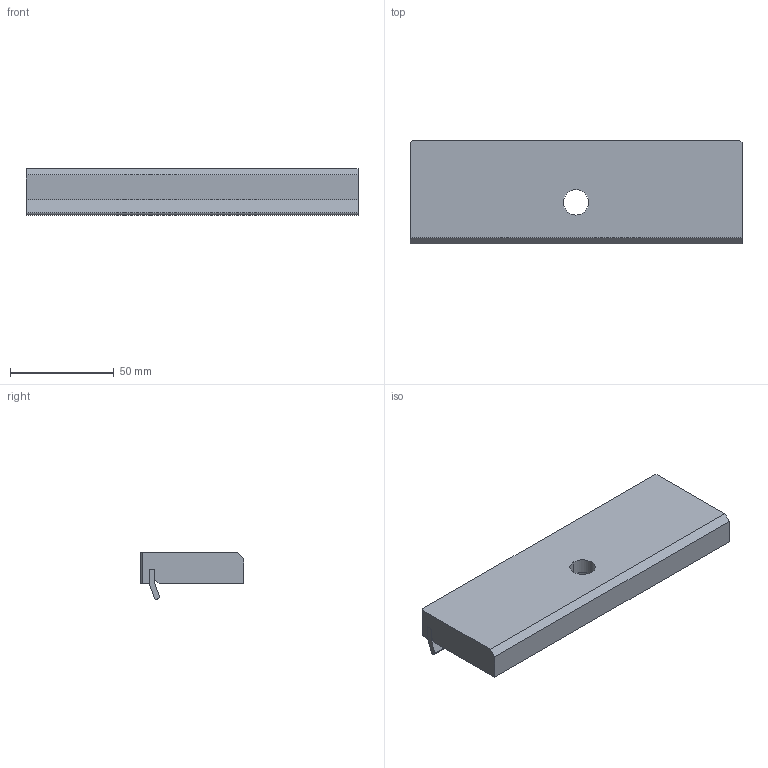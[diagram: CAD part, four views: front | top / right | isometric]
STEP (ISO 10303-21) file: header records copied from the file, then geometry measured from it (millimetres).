
FILE_DESCRIPTION (( 'STEP AP214' ), '1' );
FILE_NAME ('6921034001042.STEP', '2016-02-12T12:57:49', ( '' ), ( '' ), 'SwSTEP 2.0', 'SolidWorks 2015', '' );
FILE_SCHEMA (( 'AUTOMOTIVE_DESIGN' ));
Length unit declared in the file: millimetre
Products named in the file (3): 6921034001042; 6921034001000; 6921034002100_Federblatt-montiert
Assembly tree (2 placements, depth 2):
  6921034001042
    6921034001000
    6921034002100_Federblatt-montiert
Bounding box: 160 x 50 x 22.5 mm (x, y, z)
Volume: 119242.2 mm3; surface area: 29803.2 mm2
Topology: 2 solids, 2 shells, 27 faces, 66 edges, 44 vertices
Faces by surface type: plane 21, cylinder 6
Entity records: 906 total; most frequent: CARTESIAN_POINT 142, DIRECTION 142, ORIENTED_EDGE 132, EDGE_CURVE 66, VECTOR 54, LINE 54, AXIS2_PLACEMENT_3D 44, VERTEX_POINT 44
